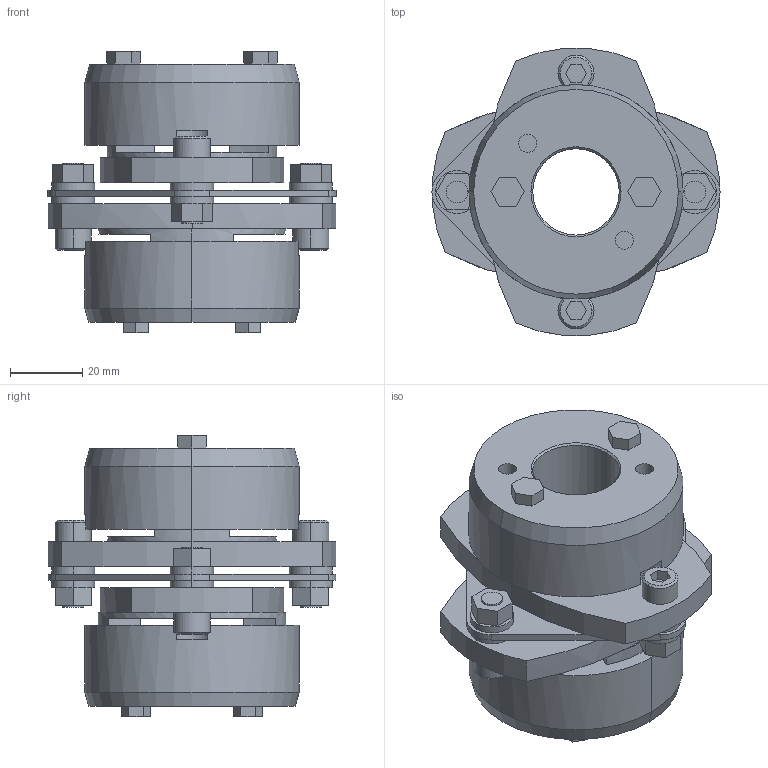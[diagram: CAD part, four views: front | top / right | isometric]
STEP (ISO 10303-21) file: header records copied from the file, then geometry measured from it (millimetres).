
FILE_DESCRIPTION((''),'2;1');
FILE_NAME('LCS-80T7-24×32.stp','2011-09-12T16:37:13',(''),(''),'AutoCAD STEP 2000i','AutoCAD 2000i',', , ');
FILE_SCHEMA(('CONFIG_CONTROL_DESIGN'));
Length unit declared in the file: millimetre
Products named in the file (13): LCS-80T7-24×32; 忣兜1; LC80T7-T032; LC80T7-T030; LC80T7-T028; LC80T7-T024-1; LC80T7-T024; LC80T7-T022; LC80T7-T019-1; LC80T7-T019; LC80T7-T017-1; LC80T7-T017; LCS80-ITA
Assembly tree (12 placements, depth 2):
  LCS-80T7-24×32
    忣兜1
    LC80T7-T032
    LC80T7-T030
    LC80T7-T028
    LC80T7-T024-1
    LC80T7-T024
    LC80T7-T022
    LC80T7-T019-1
    LC80T7-T019
    LC80T7-T017-1
    LC80T7-T017
    LCS80-ITA
Bounding box: 80 x 79.95 x 78.05 mm (x, y, z)
Volume: 150986.6 mm3; surface area: 43702 mm2
Topology: 1 solids, 1 shells, 243 faces, 600 edges, 392 vertices
Faces by surface type: plane 139, cylinder 84, cone 20
Entity records: 7521 total; most frequent: DIRECTION 1332, CARTESIAN_POINT 1248, ORIENTED_EDGE 1200, EDGE_CURVE 600, AXIS2_PLACEMENT_3D 476, VERTEX_POINT 392, VECTOR 380, LINE 380
